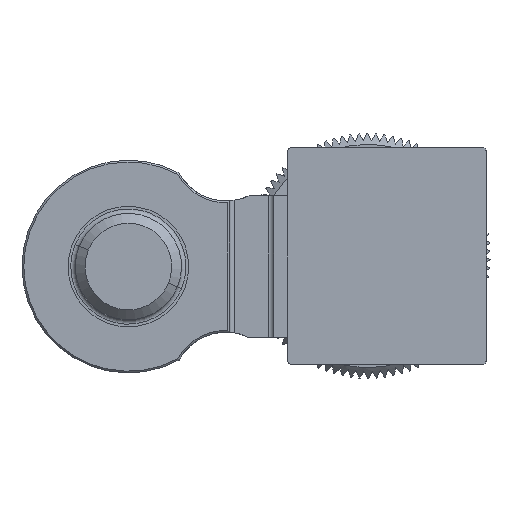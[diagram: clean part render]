
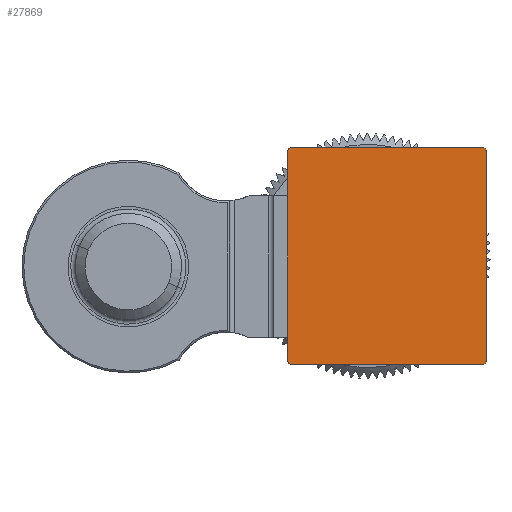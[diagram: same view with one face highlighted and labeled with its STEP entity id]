
A CAD part, left-side view. The second image highlights one B-rep face of the part: STEP entity #27869.
In plain terms, the highlighted planar face has unit normal (-1, 0, 0).
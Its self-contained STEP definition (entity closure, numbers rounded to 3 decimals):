
#135 = CARTESIAN_POINT ( 'NONE',  ( 0., -0.15, 0. ) ) ;
#376 = CARTESIAN_POINT ( 'NONE',  ( 0., -11.2, -12.05 ) ) ;
#605 = ORIENTED_EDGE ( 'NONE', *, *, #19824, .T. ) ;
#2221 = ORIENTED_EDGE ( 'NONE', *, *, #33146, .T. ) ;
#2884 = VECTOR ( 'NONE', #35540, 1000. ) ;
#3664 = EDGE_CURVE ( 'NONE', #44136, #32228, #13325, .T. ) ;
#4131 = DIRECTION ( 'NONE',  ( 0., 0., 1. ) ) ;
#4531 = DIRECTION ( 'NONE',  ( -1., 0., 0. ) ) ;
#4685 = DIRECTION ( 'NONE',  ( 0., 0., 1. ) ) ;
#5075 = EDGE_CURVE ( 'NONE', #20695, #39159, #12135, .T. ) ;
#5083 = CARTESIAN_POINT ( 'NONE',  ( 0., -5.6, 0. ) ) ;
#5656 = LINE ( 'NONE', #24201, #41688 ) ;
#6602 = ORIENTED_EDGE ( 'NONE', *, *, #5075, .T. ) ;
#6757 = VECTOR ( 'NONE', #22803, 1000. ) ;
#7539 = CARTESIAN_POINT ( 'NONE',  ( 0., -11.049, -12.2 ) ) ;
#7602 = EDGE_CURVE ( 'NONE', #10538, #20695, #21789, .T. ) ;
#8420 = ORIENTED_EDGE ( 'NONE', *, *, #31218, .T. ) ;
#8515 = CARTESIAN_POINT ( 'NONE',  ( 0., -0.15, -0.15 ) ) ;
#9774 = CARTESIAN_POINT ( 'NONE',  ( 0., -5.6, -12.2 ) ) ;
#10538 = VERTEX_POINT ( 'NONE', #135 ) ;
#11010 = ORIENTED_EDGE ( 'NONE', *, *, #3664, .T. ) ;
#11101 = CARTESIAN_POINT ( 'NONE',  ( 0., 0., 0. ) ) ;
#11124 = PLANE ( 'NONE',  #34076 ) ;
#12047 = CIRCLE ( 'NONE', #40617, 0.15 ) ;
#12135 = LINE ( 'NONE', #11101, #2884 ) ;
#13325 = LINE ( 'NONE', #9774, #25908 ) ;
#13757 = CARTESIAN_POINT ( 'NONE',  ( 0., -11.049, -12.2 ) ) ;
#14327 = DIRECTION ( 'NONE',  ( -1., 0., 0. ) ) ;
#15709 = CARTESIAN_POINT ( 'NONE',  ( 0., -11.2, -0.15 ) ) ;
#15903 = ORIENTED_EDGE ( 'NONE', *, *, #39999, .T. ) ;
#18880 = CARTESIAN_POINT ( 'NONE',  ( 0., -11.2, -12.05 ) ) ;
#19405 = CARTESIAN_POINT ( 'NONE',  ( 0., -11.138, 0. ) ) ;
#19824 = EDGE_CURVE ( 'NONE', #32228, #26019, #28184, .T. ) ;
#20652 = CARTESIAN_POINT ( 'NONE',  ( 0., -11.049, 0. ) ) ;
#20695 = VERTEX_POINT ( 'NONE', #42210 ) ;
#21244 = ORIENTED_EDGE ( 'NONE', *, *, #21930, .F. ) ;
#21789 = CIRCLE ( 'NONE', #31351, 0.15 ) ;
#21930 = EDGE_CURVE ( 'NONE', #28344, #26019, #5656, .T. ) ;
#22047 = LINE ( 'NONE', #5083, #6757 ) ;
#22803 = DIRECTION ( 'NONE',  ( 0., 1., 0. ) ) ;
#24201 = CARTESIAN_POINT ( 'NONE',  ( 0., -11.2, 0. ) ) ;
#24358 = DIRECTION ( 'NONE',  ( 0., 0., -1. ) ) ;
#24466 = CARTESIAN_POINT ( 'NONE',  ( 0., -11.138, -12.2 ) ) ;
#25664 = CARTESIAN_POINT ( 'NONE',  ( 0., 0., -12.05 ) ) ;
#25908 = VECTOR ( 'NONE', #37582, 1000. ) ;
#26019 = VERTEX_POINT ( 'NONE', #18880 ) ;
#27411 = DIRECTION ( 'NONE',  ( 0., 0., 1. ) ) ;
#27869 = ADVANCED_FACE ( 'NONE', ( #28092 ), #11124, .T. ) ;
#27895 = EDGE_LOOP ( 'NONE', ( #8420, #31101, #6602, #2221, #11010, #605, #21244, #15903 ) ) ;
#28092 = FACE_OUTER_BOUND ( 'NONE', #27895, .T. ) ;
#28184 =( BOUNDED_CURVE ( )  B_SPLINE_CURVE ( 3, ( #13757, #24466, #31332, #376 ),
 .UNSPECIFIED., .F., .T. ) 
 B_SPLINE_CURVE_WITH_KNOTS ( ( 4, 4 ),
 ( 4.712, 6.283 ),
 .UNSPECIFIED. ) 
 CURVE ( )  GEOMETRIC_REPRESENTATION_ITEM ( )  RATIONAL_B_SPLINE_CURVE ( ( 1., 0.805, 0.805, 1. ) ) 
 REPRESENTATION_ITEM ( '' )  );
#28344 = VERTEX_POINT ( 'NONE', #38219 ) ;
#28858 =( BOUNDED_CURVE ( )  B_SPLINE_CURVE ( 3, ( #15709, #29449, #19405, #36932 ),
 .UNSPECIFIED., .F., .F. ) 
 B_SPLINE_CURVE_WITH_KNOTS ( ( 4, 4 ),
 ( 3.142, 4.712 ),
 .UNSPECIFIED. ) 
 CURVE ( )  GEOMETRIC_REPRESENTATION_ITEM ( )  RATIONAL_B_SPLINE_CURVE ( ( 1., 0.805, 0.805, 1. ) ) 
 REPRESENTATION_ITEM ( '' )  );
#29449 = CARTESIAN_POINT ( 'NONE',  ( 0., -11.2, -0.062 ) ) ;
#30622 = CARTESIAN_POINT ( 'NONE',  ( 0., -0.15, -12.05 ) ) ;
#31101 = ORIENTED_EDGE ( 'NONE', *, *, #7602, .T. ) ;
#31218 = EDGE_CURVE ( 'NONE', #32663, #10538, #22047, .T. ) ;
#31332 = CARTESIAN_POINT ( 'NONE',  ( 0., -11.2, -12.138 ) ) ;
#31351 = AXIS2_PLACEMENT_3D ( 'NONE', #8515, #4531, #4685 ) ;
#32228 = VERTEX_POINT ( 'NONE', #7539 ) ;
#32663 = VERTEX_POINT ( 'NONE', #20652 ) ;
#33146 = EDGE_CURVE ( 'NONE', #39159, #44136, #12047, .T. ) ;
#33231 = CARTESIAN_POINT ( 'NONE',  ( 0., -0.15, -12.2 ) ) ;
#34076 = AXIS2_PLACEMENT_3D ( 'NONE', #35279, #14327, #4131 ) ;
#35279 = CARTESIAN_POINT ( 'NONE',  ( 0., -5.6, 0. ) ) ;
#35540 = DIRECTION ( 'NONE',  ( 0., 0., -1. ) ) ;
#36932 = CARTESIAN_POINT ( 'NONE',  ( 0., -11.049, 0. ) ) ;
#37582 = DIRECTION ( 'NONE',  ( 0., -1., 0. ) ) ;
#38219 = CARTESIAN_POINT ( 'NONE',  ( 0., -11.2, -0.15 ) ) ;
#39159 = VERTEX_POINT ( 'NONE', #25664 ) ;
#39999 = EDGE_CURVE ( 'NONE', #28344, #32663, #28858, .T. ) ;
#40617 = AXIS2_PLACEMENT_3D ( 'NONE', #30622, #41282, #27411 ) ;
#41282 = DIRECTION ( 'NONE',  ( -1., 0., 0. ) ) ;
#41688 = VECTOR ( 'NONE', #24358, 1000. ) ;
#42210 = CARTESIAN_POINT ( 'NONE',  ( 0., 0., -0.15 ) ) ;
#44136 = VERTEX_POINT ( 'NONE', #33231 ) ;
